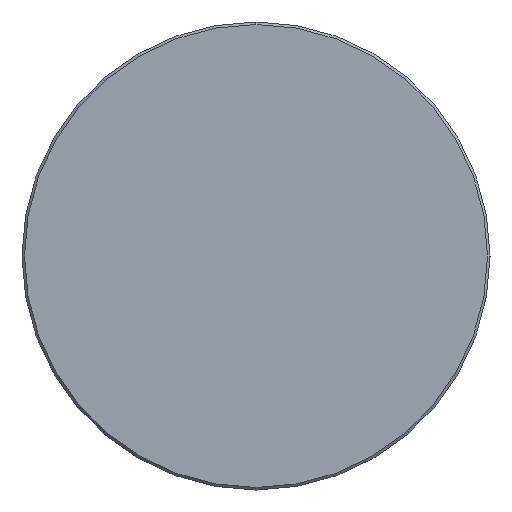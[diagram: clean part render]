
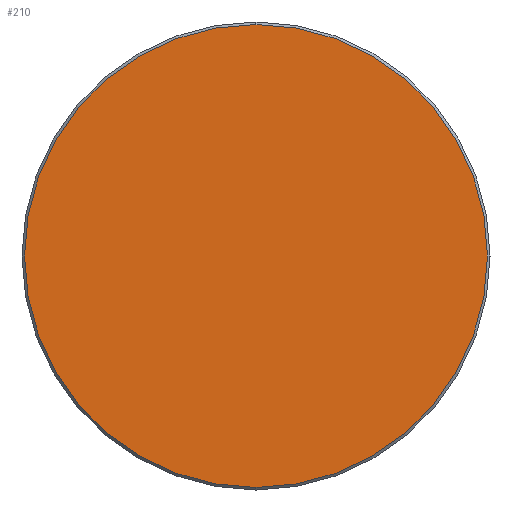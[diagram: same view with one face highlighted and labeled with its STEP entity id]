
A CAD part, left-side view. The second image highlights one B-rep face of the part: STEP entity #210.
In plain terms, the highlighted planar face has unit normal (-1, 0, 0).
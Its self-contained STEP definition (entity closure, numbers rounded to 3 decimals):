
#44 = CARTESIAN_POINT ( 'NONE',  ( 0., 0., 27.2 ) ) ;
#80 = ORIENTED_EDGE ( 'NONE', *, *, #319, .T. ) ;
#113 = VERTEX_POINT ( 'NONE', #44 ) ;
#137 = CARTESIAN_POINT ( 'NONE',  ( 0., 0., 0. ) ) ;
#191 = PLANE ( 'NONE',  #201 ) ;
#201 = AXIS2_PLACEMENT_3D ( 'NONE', #800, #521, #514 ) ;
#210 = ADVANCED_FACE ( 'NONE', ( #535 ), #191, .F. ) ;
#269 = EDGE_LOOP ( 'NONE', ( #583, #80 ) ) ;
#319 = EDGE_CURVE ( 'NONE', #113, #332, #553, .T. ) ;
#326 = DIRECTION ( 'NONE',  ( 0., 0., 1. ) ) ;
#332 = VERTEX_POINT ( 'NONE', #669 ) ;
#343 = CARTESIAN_POINT ( 'NONE',  ( 0., 0., 0. ) ) ;
#484 = DIRECTION ( 'NONE',  ( 0., 0., 1. ) ) ;
#514 = DIRECTION ( 'NONE',  ( 0., 0., -1. ) ) ;
#521 = DIRECTION ( 'NONE',  ( 1., 0., 0. ) ) ;
#531 = CIRCLE ( 'NONE', #725, 27.2 ) ;
#535 = FACE_OUTER_BOUND ( 'NONE', #269, .T. ) ;
#553 = CIRCLE ( 'NONE', #746, 27.2 ) ;
#583 = ORIENTED_EDGE ( 'NONE', *, *, #825, .T. ) ;
#669 = CARTESIAN_POINT ( 'NONE',  ( 0., 0., -27.2 ) ) ;
#725 = AXIS2_PLACEMENT_3D ( 'NONE', #343, #836, #484 ) ;
#746 = AXIS2_PLACEMENT_3D ( 'NONE', #137, #749, #326 ) ;
#749 = DIRECTION ( 'NONE',  ( -1., 0., 0. ) ) ;
#800 = CARTESIAN_POINT ( 'NONE',  ( 0., 0., 0. ) ) ;
#825 = EDGE_CURVE ( 'NONE', #332, #113, #531, .T. ) ;
#836 = DIRECTION ( 'NONE',  ( -1., 0., 0. ) ) ;
